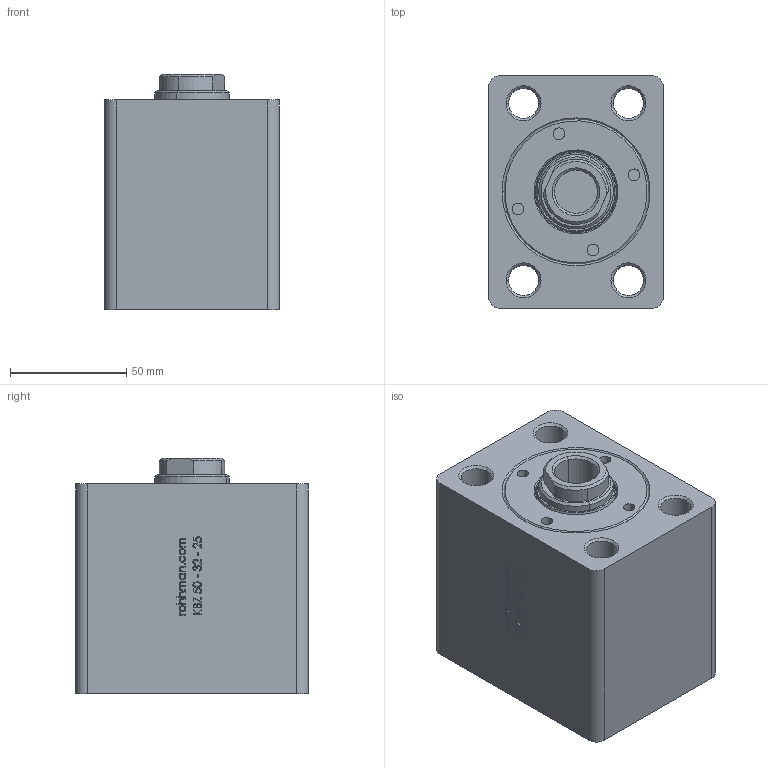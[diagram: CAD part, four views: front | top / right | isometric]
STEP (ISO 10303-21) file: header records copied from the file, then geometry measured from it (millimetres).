
FILE_DESCRIPTION (( 'STEP AP214' ), '1' );
FILE_NAME ('KBZ_02_50_32_25.STEP', '2023-05-19T19:14:27', ( '' ), ( '' ), 'SwSTEP 2.0', 'SolidWorks 2021', '' );
FILE_SCHEMA (( 'AUTOMOTIVE_DESIGN' ));
Length unit declared in the file: millimetre
Products named in the file (9): KBZ_02_50_32_25; K06-32X40_2X3_8X5; 32_25_M尳_WEB; 32_36_PAP_32_10; KBZ_02_50-32_ON_KAPAK; KO-50X2_5; KBZ_02_50_32_ON_KAPAK; 50-32-25-GOVDE_WEB; K22-32X42X7(K22_32)
Assembly tree (8 placements, depth 3):
  KBZ_02_50_32_25
    50-32-25-GOVDE_WEB
    32_25_M尳_WEB
    KBZ_02_50_32_ON_KAPAK
      KBZ_02_50-32_ON_KAPAK
      K06-32X40_2X3_8X5
      K22-32X42X7(K22_32)
      32_36_PAP_32_10
      KO-50X2_5
Bounding box: 75 x 100 x 101 mm (x, y, z)
Volume: 511935.7 mm3; surface area: 107349.9 mm2
Topology: 7 solids, 7 shells, 563 faces, 1363 edges, 868 vertices
Faces by surface type: plane 201, bspline 170, cone 95, cylinder 89, torus 8
Entity records: 24753 total; most frequent: CARTESIAN_POINT 12085, ORIENTED_EDGE 2726, DIRECTION 2108, EDGE_CURVE 1363, VERTEX_POINT 868, VECTOR 716, LINE 716, AXIS2_PLACEMENT_3D 696
